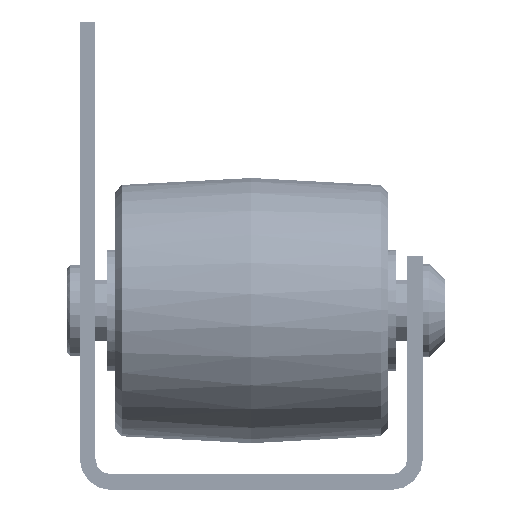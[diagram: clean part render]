
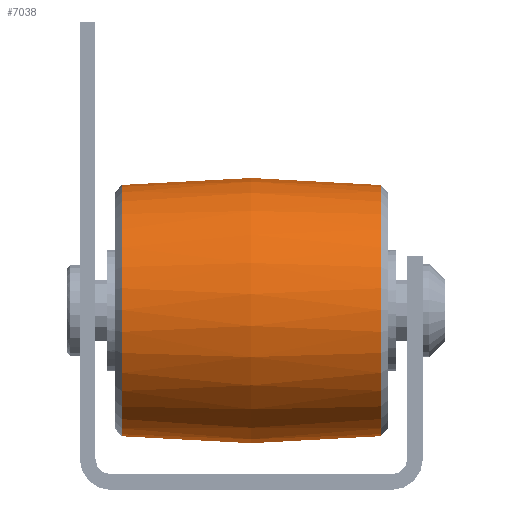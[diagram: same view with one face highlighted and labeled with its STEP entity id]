
A CAD part, front view. The second image highlights one B-rep face of the part: STEP entity #7038.
In plain terms, the highlighted toroidal (fillet/blend) face has major radius 68.844 mm and minor radius 77.344 mm.
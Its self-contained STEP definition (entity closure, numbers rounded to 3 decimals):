
#22=DEGENERATE_TOROIDAL_SURFACE('',#7931,68.844,77.344,
 .F.);
#1703=CIRCLE('',#7932,8.056);
#1704=CIRCLE('',#7933,8.05);
#3028=ORIENTED_EDGE('',*,*,#3710,.T.);
#3029=ORIENTED_EDGE('',*,*,#3711,.T.);
#3710=EDGE_CURVE('',#4319,#4319,#1703,.T.);
#3711=EDGE_CURVE('',#4320,#4320,#1704,.T.);
#4319=VERTEX_POINT('',#12043);
#4320=VERTEX_POINT('',#12045);
#5598=EDGE_LOOP('',(#3028));
#5599=EDGE_LOOP('',(#3029));
#6642=FACE_BOUND('',#5598,.T.);
#6643=FACE_BOUND('',#5599,.T.);
#7038=ADVANCED_FACE('',(#6642,#6643),#22,.F.);
#7931=AXIS2_PLACEMENT_3D('',#12041,#9985,#9986);
#7932=AXIS2_PLACEMENT_3D('',#12042,#9987,#9988);
#7933=AXIS2_PLACEMENT_3D('',#12044,#9989,#9990);
#9985=DIRECTION('',(0.,-1.,0.));
#9986=DIRECTION('',(0.,0.,-1.));
#9987=DIRECTION('',(0.,-1.,0.));
#9988=DIRECTION('',(0.,0.,-1.));
#9989=DIRECTION('',(0.,1.,0.));
#9990=DIRECTION('',(0.,0.,1.));
#12041=CARTESIAN_POINT('',(0.,0.03,0.));
#12042=CARTESIAN_POINT('',(0.,8.303,0.));
#12043=CARTESIAN_POINT('',(0.,8.303,-8.056));
#12044=CARTESIAN_POINT('',(0.,-8.304,0.));
#12045=CARTESIAN_POINT('',(0.,-8.304,8.05));
